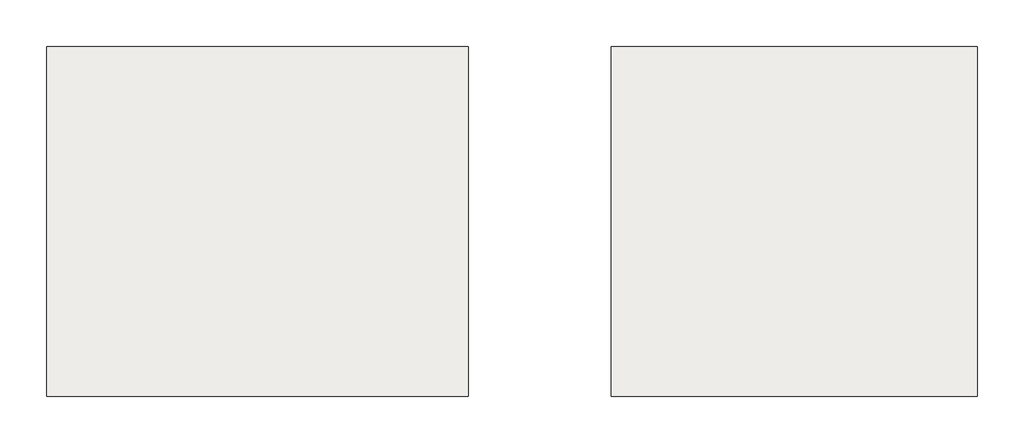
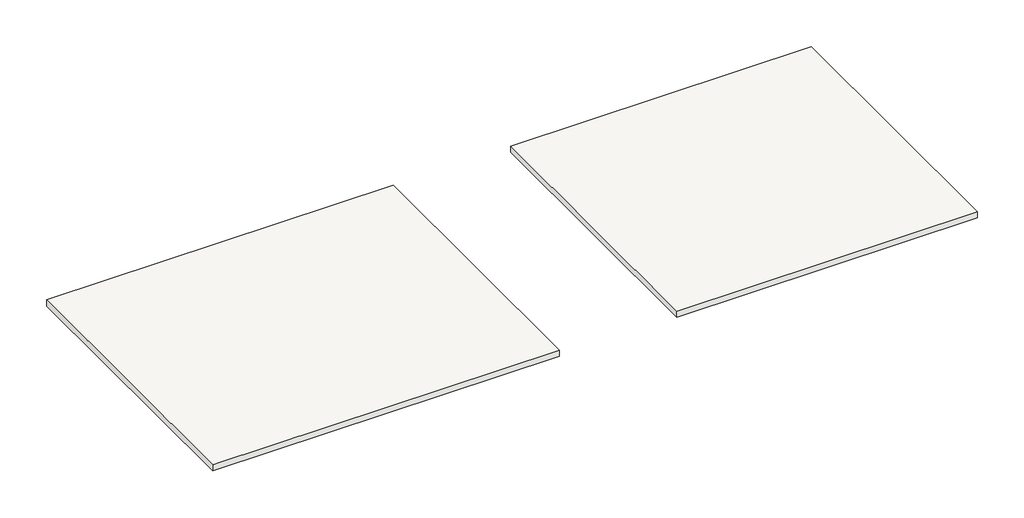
# One storey, incomplete: 2 slabs.
"""IFC4 building model written with IfcOpenShell, lengths in millimetres."""

from ifc_helpers import new_model, si_unit, frame, origin, place, context, project, spatial, polyline, outline, extrude, element, save

model = new_model("IFC4")

# Units and contexts
model_context = context("Model", 3, world=origin())
ifc_project = project(units=[si_unit("LENGTHUNIT", "METRE", prefix="MILLI")], contexts=[model_context])

# Site, building, storey
site = spatial("IfcSite", under=ifc_project)
building = spatial("IfcBuilding", under=site)
storey = spatial("IfcBuildingStorey", under=building, Name="Sola Lounge", Elevation=3000.0)

# Slabs
placement = place(None, origin())
element("IfcSlab", 1, ObjectType="Floor 1", at=placement, inside=storey, context=model_context, shape_type="SweptSolid", body=[
    extrude(outline(polyline([(9019.5001546, 5975.4305119), (9019.5001546, 1575.4305119), (3719.5001546, 1575.4305119), (3719.5001546, 5975.4305119), (9019.5001546, 5975.4305119)])), frame((0.0, 0.0, 2899.0), z_axis=(0.0, 0.0, 1.0), x_axis=(1.0, 0.0, 0.0)), (0.0, 0.0, 1.0), 100.0),
])
element("IfcSlab", 2, ObjectType="Floor 1", at=placement, inside=storey, context=model_context, shape_type="SweptSolid", body=[
    extrude(outline(polyline([(15419.5001546, 5975.4305119), (15419.5001546, 1575.4305119), (10819.5001546, 1575.4305119), (10819.5001546, 5975.4305119), (15419.5001546, 5975.4305119)])), frame((0.0, 0.0, 2899.0), z_axis=(0.0, 0.0, 1.0), x_axis=(1.0, 0.0, 0.0)), (0.0, 0.0, 1.0), 100.0),
])

save(model, "model.ifc")
